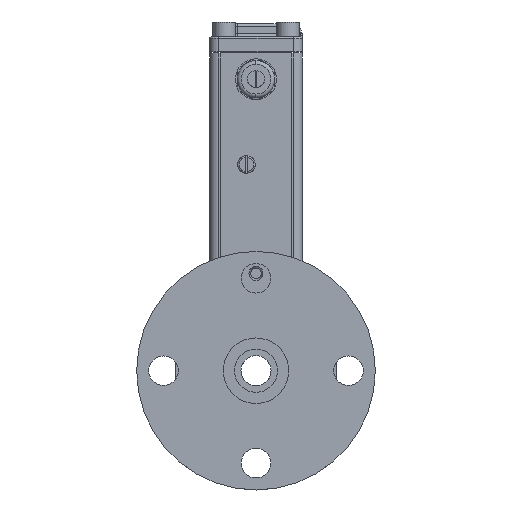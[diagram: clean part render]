
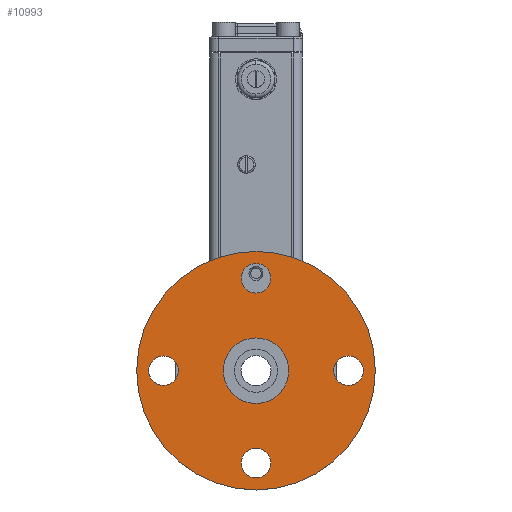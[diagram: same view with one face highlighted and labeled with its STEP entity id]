
A CAD part, left-side view. The second image highlights one B-rep face of the part: STEP entity #10993.
In plain terms, the highlighted planar face has unit normal (-1, 0, 0).
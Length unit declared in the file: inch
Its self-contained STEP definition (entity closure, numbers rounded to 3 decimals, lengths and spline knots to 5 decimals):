
#159 = ORIENTED_EDGE ( 'NONE', *, *, #2045, .T. ) ;
#163 = CIRCLE ( 'NONE', #6800, 0.31 ) ;
#396 = CIRCLE ( 'NONE', #6039, 0.68701 ) ;
#682 = DIRECTION ( 'NONE',  ( 1., 0., 0. ) ) ;
#748 = CARTESIAN_POINT ( 'NONE',  ( -5.3621, 0.71228, -0.37344 ) ) ;
#901 = ORIENTED_EDGE ( 'NONE', *, *, #6279, .T. ) ;
#1001 = CARTESIAN_POINT ( 'NONE',  ( -5.3621, 0.71228, 2.12656 ) ) ;
#1242 = CIRCLE ( 'NONE', #7653, 0.31 ) ;
#1358 = CARTESIAN_POINT ( 'NONE',  ( -5.3621, 0.71228, 1.56406 ) ) ;
#1538 = EDGE_LOOP ( 'NONE', ( #10084, #13852 ) ) ;
#1618 = VERTEX_POINT ( 'NONE', #9731 ) ;
#1772 = DIRECTION ( 'NONE',  ( 0., 0., -1. ) ) ;
#1819 = DIRECTION ( 'NONE',  ( 0., 0., -1. ) ) ;
#1874 = CIRCLE ( 'NONE', #10100, 2.5 ) ;
#2019 = ORIENTED_EDGE ( 'NONE', *, *, #3813, .F. ) ;
#2045 = EDGE_CURVE ( 'NONE', #7008, #8582, #1242, .T. ) ;
#2107 = AXIS2_PLACEMENT_3D ( 'NONE', #1358, #8855, #2434 ) ;
#2254 = CARTESIAN_POINT ( 'NONE',  ( -5.3621, 0.71228, -2.31094 ) ) ;
#2434 = DIRECTION ( 'NONE',  ( 0., 0., -1. ) ) ;
#2681 = CARTESIAN_POINT ( 'NONE',  ( -5.3621, 0.71228, 1.56406 ) ) ;
#2789 = EDGE_CURVE ( 'NONE', #6507, #7735, #4213, .T. ) ;
#2844 = EDGE_CURVE ( 'NONE', #1618, #11441, #3549, .T. ) ;
#2970 = DIRECTION ( 'NONE',  ( 1., 0., 0. ) ) ;
#3157 = CARTESIAN_POINT ( 'NONE',  ( -5.3621, 2.64978, -0.37344 ) ) ;
#3172 = VERTEX_POINT ( 'NONE', #3620 ) ;
#3274 = ORIENTED_EDGE ( 'NONE', *, *, #8628, .T. ) ;
#3307 = DIRECTION ( 'NONE',  ( 0., 0., -1. ) ) ;
#3549 = CIRCLE ( 'NONE', #12574, 0.31 ) ;
#3601 = AXIS2_PLACEMENT_3D ( 'NONE', #3157, #10682, #4243 ) ;
#3620 = CARTESIAN_POINT ( 'NONE',  ( -5.3621, -1.22522, -0.68344 ) ) ;
#3651 = DIRECTION ( 'NONE',  ( 1., 0., 0. ) ) ;
#3692 = EDGE_CURVE ( 'NONE', #11441, #1618, #11098, .T. ) ;
#3749 = DIRECTION ( 'NONE',  ( 0., 0., -1. ) ) ;
#3813 = EDGE_CURVE ( 'NONE', #7735, #6507, #1874, .T. ) ;
#3956 = DIRECTION ( 'NONE',  ( 1., 0., 0. ) ) ;
#4178 = CIRCLE ( 'NONE', #2107, 0.31 ) ;
#4210 = ORIENTED_EDGE ( 'NONE', *, *, #2789, .F. ) ;
#4213 = CIRCLE ( 'NONE', #7571, 2.5 ) ;
#4243 = DIRECTION ( 'NONE',  ( 0., 0., -1. ) ) ;
#4671 = ORIENTED_EDGE ( 'NONE', *, *, #8945, .T. ) ;
#4940 = PLANE ( 'NONE',  #4943 ) ;
#4943 = AXIS2_PLACEMENT_3D ( 'NONE', #11383, #8199, #1772 ) ;
#5061 = CARTESIAN_POINT ( 'NONE',  ( -5.3621, -1.22522, -0.37344 ) ) ;
#5094 = EDGE_CURVE ( 'NONE', #12372, #11966, #4178, .T. ) ;
#5320 = CARTESIAN_POINT ( 'NONE',  ( -5.3621, 0.71228, -0.37344 ) ) ;
#5321 = CIRCLE ( 'NONE', #9631, 0.31 ) ;
#5346 = AXIS2_PLACEMENT_3D ( 'NONE', #7103, #682, #8173 ) ;
#5515 = EDGE_LOOP ( 'NONE', ( #3274, #901 ) ) ;
#5521 = CIRCLE ( 'NONE', #13806, 0.31 ) ;
#5581 = DIRECTION ( 'NONE',  ( 1., 0., 0. ) ) ;
#5715 = EDGE_LOOP ( 'NONE', ( #8055, #11763 ) ) ;
#5852 = CARTESIAN_POINT ( 'NONE',  ( -5.3621, 0.71228, 1.87406 ) ) ;
#5875 = ORIENTED_EDGE ( 'NONE', *, *, #6221, .T. ) ;
#6039 = AXIS2_PLACEMENT_3D ( 'NONE', #10108, #3651, #11154 ) ;
#6100 = FACE_BOUND ( 'NONE', #1538, .T. ) ;
#6145 = DIRECTION ( 'NONE',  ( 0., 0., -1. ) ) ;
#6221 = EDGE_CURVE ( 'NONE', #6368, #9003, #8524, .T. ) ;
#6279 = EDGE_CURVE ( 'NONE', #3172, #10691, #13189, .T. ) ;
#6368 = VERTEX_POINT ( 'NONE', #8817 ) ;
#6401 = DIRECTION ( 'NONE',  ( 0., 0., -1. ) ) ;
#6446 = FACE_BOUND ( 'NONE', #5715, .T. ) ;
#6507 = VERTEX_POINT ( 'NONE', #13323 ) ;
#6800 = AXIS2_PLACEMENT_3D ( 'NONE', #11993, #5581, #13071 ) ;
#6958 = CARTESIAN_POINT ( 'NONE',  ( -5.3621, 0.71228, -2.00094 ) ) ;
#7008 = VERTEX_POINT ( 'NONE', #6958 ) ;
#7103 = CARTESIAN_POINT ( 'NONE',  ( -5.3621, 0.71228, -0.37344 ) ) ;
#7513 = CARTESIAN_POINT ( 'NONE',  ( -5.3621, 0.71228, 1.25406 ) ) ;
#7571 = AXIS2_PLACEMENT_3D ( 'NONE', #748, #8239, #1819 ) ;
#7653 = AXIS2_PLACEMENT_3D ( 'NONE', #2254, #9759, #3307 ) ;
#7735 = VERTEX_POINT ( 'NONE', #1001 ) ;
#8055 = ORIENTED_EDGE ( 'NONE', *, *, #8243, .T. ) ;
#8173 = DIRECTION ( 'NONE',  ( 0., 0., 1. ) ) ;
#8189 = ORIENTED_EDGE ( 'NONE', *, *, #11922, .T. ) ;
#8199 = DIRECTION ( 'NONE',  ( 1., 0., 0. ) ) ;
#8239 = DIRECTION ( 'NONE',  ( 1., 0., 0. ) ) ;
#8243 = EDGE_CURVE ( 'NONE', #11966, #12372, #5521, .T. ) ;
#8524 = CIRCLE ( 'NONE', #5346, 0.68701 ) ;
#8543 = CARTESIAN_POINT ( 'NONE',  ( -5.3621, -1.22522, -0.06344 ) ) ;
#8582 = VERTEX_POINT ( 'NONE', #8637 ) ;
#8628 = EDGE_CURVE ( 'NONE', #10691, #3172, #163, .T. ) ;
#8637 = CARTESIAN_POINT ( 'NONE',  ( -5.3621, 0.71228, -2.62094 ) ) ;
#8817 = CARTESIAN_POINT ( 'NONE',  ( -5.3621, 0.71228, -1.06045 ) ) ;
#8855 = DIRECTION ( 'NONE',  ( 1., 0., 0. ) ) ;
#8945 = EDGE_CURVE ( 'NONE', #8582, #7008, #5321, .T. ) ;
#8947 = AXIS2_PLACEMENT_3D ( 'NONE', #5061, #12569, #6145 ) ;
#8964 = FACE_BOUND ( 'NONE', #10118, .T. ) ;
#9003 = VERTEX_POINT ( 'NONE', #13757 ) ;
#9312 = FACE_BOUND ( 'NONE', #10431, .T. ) ;
#9427 = CARTESIAN_POINT ( 'NONE',  ( -5.3621, 2.64978, -0.37344 ) ) ;
#9631 = AXIS2_PLACEMENT_3D ( 'NONE', #10406, #3956, #11475 ) ;
#9731 = CARTESIAN_POINT ( 'NONE',  ( -5.3621, 2.64978, -0.68344 ) ) ;
#9759 = DIRECTION ( 'NONE',  ( 1., 0., 0. ) ) ;
#10084 = ORIENTED_EDGE ( 'NONE', *, *, #3692, .T. ) ;
#10100 = AXIS2_PLACEMENT_3D ( 'NONE', #5320, #12826, #6401 ) ;
#10108 = CARTESIAN_POINT ( 'NONE',  ( -5.3621, 0.71228, -0.37344 ) ) ;
#10118 = EDGE_LOOP ( 'NONE', ( #159, #4671 ) ) ;
#10192 = DIRECTION ( 'NONE',  ( 1., 0., 0. ) ) ;
#10406 = CARTESIAN_POINT ( 'NONE',  ( -5.3621, 0.71228, -2.31094 ) ) ;
#10431 = EDGE_LOOP ( 'NONE', ( #8189, #5875 ) ) ;
#10492 = DIRECTION ( 'NONE',  ( 0., 0., -1. ) ) ;
#10682 = DIRECTION ( 'NONE',  ( 1., 0., 0. ) ) ;
#10691 = VERTEX_POINT ( 'NONE', #8543 ) ;
#10993 = ADVANCED_FACE ( 'NONE', ( #9312, #6446, #12478, #8964, #11818, #6100 ), #4940, .F. ) ;
#11098 = CIRCLE ( 'NONE', #3601, 0.31 ) ;
#11154 = DIRECTION ( 'NONE',  ( 0., 0., 1. ) ) ;
#11383 = CARTESIAN_POINT ( 'NONE',  ( -5.3621, 0.71228, -0.37344 ) ) ;
#11441 = VERTEX_POINT ( 'NONE', #13409 ) ;
#11475 = DIRECTION ( 'NONE',  ( 0., 0., -1. ) ) ;
#11763 = ORIENTED_EDGE ( 'NONE', *, *, #5094, .T. ) ;
#11818 = FACE_BOUND ( 'NONE', #5515, .T. ) ;
#11922 = EDGE_CURVE ( 'NONE', #9003, #6368, #396, .T. ) ;
#11966 = VERTEX_POINT ( 'NONE', #5852 ) ;
#11993 = CARTESIAN_POINT ( 'NONE',  ( -5.3621, -1.22522, -0.37344 ) ) ;
#12372 = VERTEX_POINT ( 'NONE', #7513 ) ;
#12478 = FACE_OUTER_BOUND ( 'NONE', #13724, .T. ) ;
#12569 = DIRECTION ( 'NONE',  ( 1., 0., 0. ) ) ;
#12574 = AXIS2_PLACEMENT_3D ( 'NONE', #9427, #2970, #10492 ) ;
#12826 = DIRECTION ( 'NONE',  ( 1., 0., 0. ) ) ;
#13071 = DIRECTION ( 'NONE',  ( 0., 0., -1. ) ) ;
#13189 = CIRCLE ( 'NONE', #8947, 0.31 ) ;
#13323 = CARTESIAN_POINT ( 'NONE',  ( -5.3621, 0.71228, -2.87344 ) ) ;
#13409 = CARTESIAN_POINT ( 'NONE',  ( -5.3621, 2.64978, -0.06344 ) ) ;
#13724 = EDGE_LOOP ( 'NONE', ( #2019, #4210 ) ) ;
#13757 = CARTESIAN_POINT ( 'NONE',  ( -5.3621, 0.71228, 0.31357 ) ) ;
#13806 = AXIS2_PLACEMENT_3D ( 'NONE', #2681, #10192, #3749 ) ;
#13852 = ORIENTED_EDGE ( 'NONE', *, *, #2844, .T. ) ;
